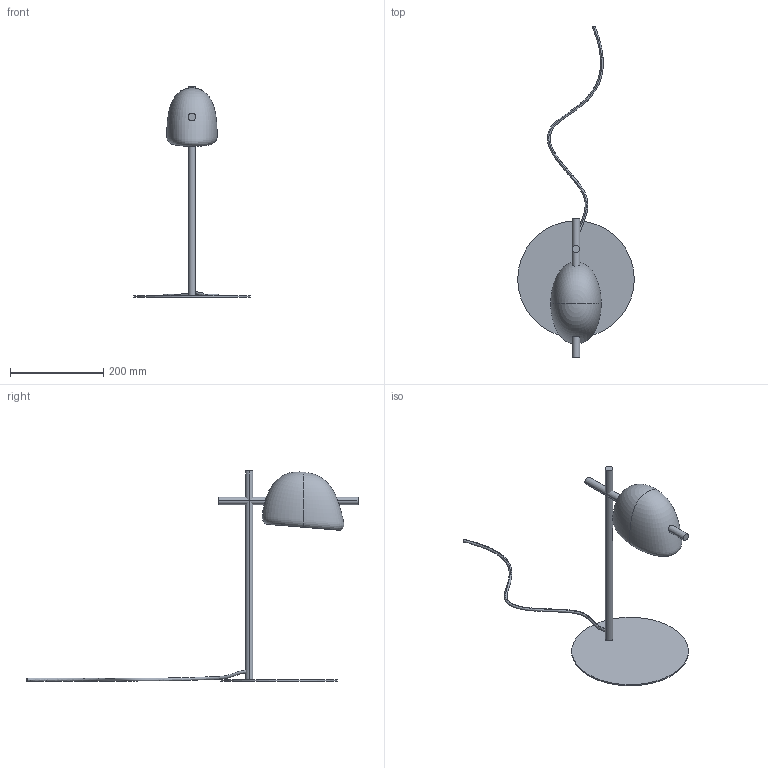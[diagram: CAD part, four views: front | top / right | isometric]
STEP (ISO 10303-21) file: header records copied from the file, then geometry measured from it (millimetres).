
FILE_DESCRIPTION (( 'STEP AP214' ), '1' );
FILE_NAME ('S1354.STEP', '2025-12-31T08:12:06', ( '' ), ( '' ), 'SwSTEP 2.0', 'SolidWorks 2023', '' );
FILE_SCHEMA (( 'AUTOMOTIVE_DESIGN' ));
Length unit declared in the file: millimetre
Products named in the file (1): S1354
Bounding box: 250 x 711.37 x 450 mm (x, y, z)
Volume: 571395.8 mm3; surface area: 259079 mm2
Topology: 6 solids, 6 shells, 29 faces, 59 edges, 34 vertices
Faces by surface type: cylinder 11, bspline 10, plane 8
Entity records: 10281 total; most frequent: CARTESIAN_POINT 9709, ORIENTED_EDGE 102, DIRECTION 81, EDGE_CURVE 51, AXIS2_PLACEMENT_3D 40, VERTEX_POINT 34, EDGE_LOOP 33, B_SPLINE_CURVE_WITH_KNOTS 30
